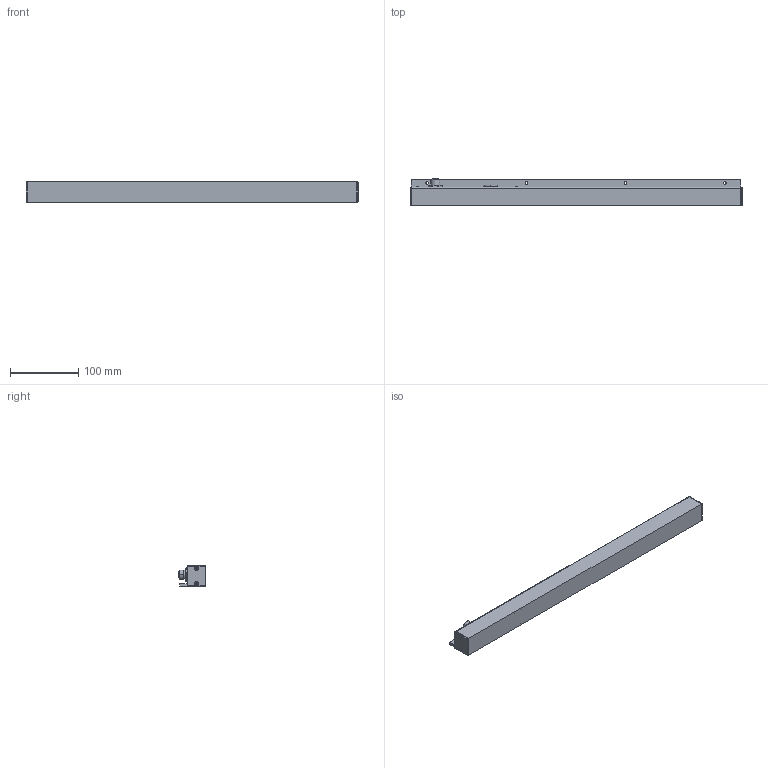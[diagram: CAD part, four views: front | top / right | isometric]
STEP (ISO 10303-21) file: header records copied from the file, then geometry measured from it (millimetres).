
FILE_DESCRIPTION (( 'STEP AP214' ), '1' );
FILE_NAME ('MGSW4800_ASSY_CAD_v4.STEP', '2019-02-21T18:18:21', ( '' ), ( '' ), 'SwSTEP 2.0', 'SolidWorks 2018', '' );
FILE_SCHEMA (( 'AUTOMOTIVE_DESIGN' ));
Length unit declared in the file: millimetre
Products named in the file (7): COVER_MGSW_V2; MGSW4800_ASSY_CAD_v4; M12-8; PG11_Plug; 91294A014_BLACK ALLOY STEEL FLAT-HEAD SOCKET CAP SCREW_91294A014; CASE_MGSW4800_V10; ledpipeSLDPRT
Assembly tree (13 placements, depth 2):
  MGSW4800_ASSY_CAD_v4
    CASE_MGSW4800_V10
    COVER_MGSW_V2  x2
    PG11_Plug
    M12-8
    ledpipeSLDPRT  x4
    91294A014_BLACK ALLOY STEEL FLAT-HEAD SOCKET CAP SCREW_91294A014  x4
Bounding box: 485 x 40.7 x 30 mm (x, y, z)
Volume: 155734.2 mm3; surface area: 128479.6 mm2
Topology: 13 solids, 13 shells, 496 faces, 1267 edges, 839 vertices
Faces by surface type: plane 201, cylinder 164, cone 80, bspline 45, torus 6
Entity records: 15935 total; most frequent: CARTESIAN_POINT 6506, ORIENTED_EDGE 1926, DIRECTION 1675, EDGE_CURVE 963, VERTEX_POINT 663, AXIS2_PLACEMENT_3D 586, VECTOR 503, LINE 503
